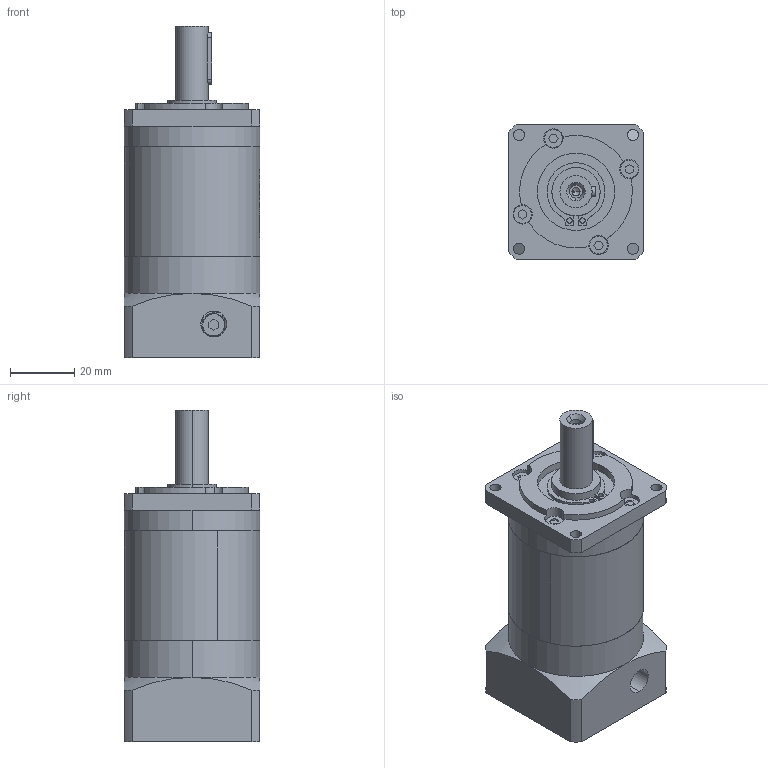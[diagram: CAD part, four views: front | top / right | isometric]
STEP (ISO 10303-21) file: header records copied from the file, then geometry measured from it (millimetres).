
FILE_DESCRIPTION (( 'STEP AP203' ), '1' );
FILE_NAME ('PLF40-L2.STEP', '2020-08-21T02:59:32', ( '' ), ( '' ), 'SwSTEP 2.0', 'SolidWorks 2014', '' );
FILE_SCHEMA (( 'CONFIG_CONTROL_DESIGN' ));
Length unit declared in the file: millimetre
Products named in the file (7): PLF40-L2; PRF40 奻屳唳_D1-70 D2-5.5 D3-14 D4-17 D5-50 L1-30 L2-35 L3-3 A1-60 S1-3 S2-20 S3-5 S4-18 B-5 H-16 C-M5; PRF40 內齿圈_二级内齿圈; PRF40 帣釱_D6-60 D7-14 梓袧; 邧埴瑩 3x3x16; 囀鞠褒蹟佪-M4℅12; GB／T276-94深沟球轴承61902-2RZ
Assembly tree (6 placements, depth 2):
  PLF40-L2
    PRF40 奻屳唳_D1-70 D2-5.5 D3-14 D4-17 D5-50 L1-30 L2-35 L3-3 A1-60 S1-3 S2-20 S3-5 S4-18 B-5 H-16 C-M5
    PRF40 內齿圈_二级内齿圈
    PRF40 帣釱_D6-60 D7-14 梓袧
    邧埴瑩 3x3x16
    囀鞠褒蹟佪-M4℅12
    GB／T276-94深沟球轴承61902-2RZ
Bounding box: 42 x 42 x 103 mm (x, y, z)
Volume: 103933.8 mm3; surface area: 36386.6 mm2
Topology: 6 solids, 6 shells, 1103 faces, 3017 edges, 1993 vertices
Faces by surface type: plane 619, bspline 316, cylinder 154, cone 14
Entity records: 48256 total; most frequent: CARTESIAN_POINT 21688, ORIENTED_EDGE 6014, DIRECTION 4358, EDGE_CURVE 3007, VERTEX_POINT 1993, LINE 1592, VECTOR 1592, AXIS2_PLACEMENT_3D 1383
